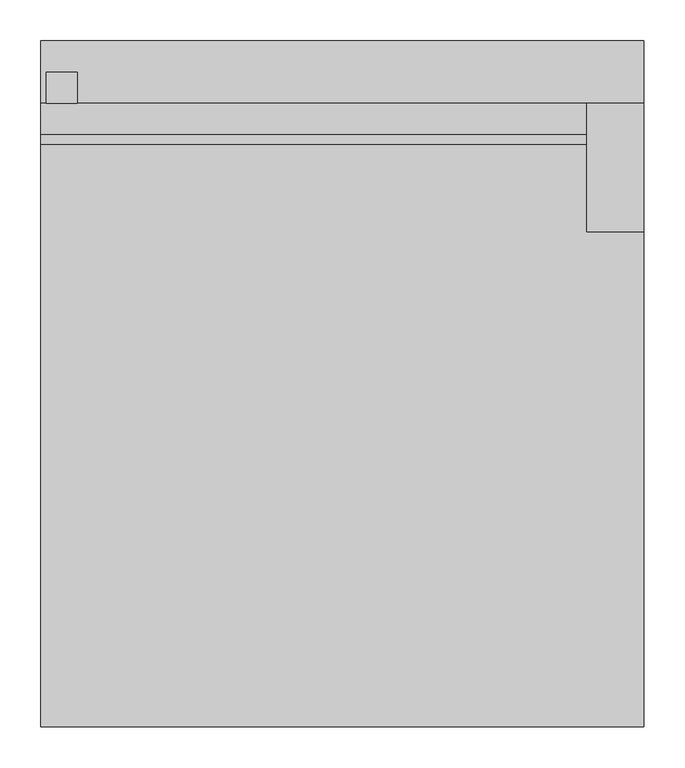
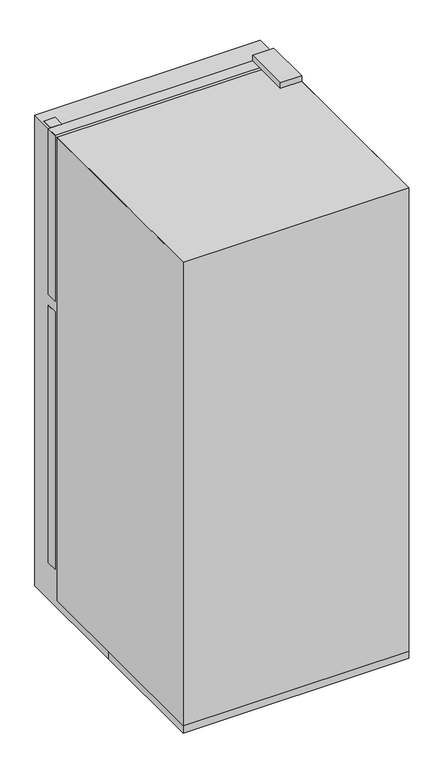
"""IFC4 building model written with IfcOpenShell, lengths in millimetres: proxy geometry, R7000 - Refrigerator, 14 Cubic Feet : R7000 - Refrigerator, 14 Cubic Feet."""

from ifc_helpers import new_model, si_unit, point, frame, frame_2d, origin, origin_with_axes, place, context, project, spatial, polyline, circle_curve, trimmed, segment, composite_curve, outline, extrude, source, transform, mapped, element, save


def specialty_equipment_83a1406d(model_context):
    return source(origin(), model_context, "Body", "SweptSolid", [
        extrude(outline(polyline([(381.0, 1016.0), (381.0, 443.3974927), (342.9, 443.3974927), (342.9, 457.3433737), (368.3159299, 457.3433737), (368.3159299, 1001.1256358), (342.9, 1001.1256358), (342.9, 1016.0), (381.0, 1016.0)])), frame((-361.95, 0.0, 0.0), z_axis=(1.0, 0.0, 0.0), x_axis=(0.0, 1.0, 0.0)), (0.0, 0.0, 1.0), 38.1),
        extrude(outline(polyline([(381.0, 1625.6), (381.0, 1052.9974927), (342.9, 1052.9974927), (342.9, 1066.9433737), (368.3159299, 1066.9433737), (368.3159299, 1610.7256358), (342.9, 1610.7256358), (342.9, 1625.6), (381.0, 1625.6)])), frame((-361.95, 0.0, 0.0), z_axis=(1.0, 0.0, 0.0), x_axis=(0.0, 1.0, 0.0)), (0.0, 0.0, 1.0), 38.1),
        extrude(outline(polyline([(368.3, 342.9), (368.3, 292.1), (291.9130819, 292.1), (291.9130819, 342.9), (368.3, 342.9)])), frame((0.0, 0.0, 107.8907444), z_axis=(0.0, 0.0, 1.0), x_axis=(1.0, 0.0, 0.0)), (0.0, 0.0, 1.0), 19.05),
        extrude(outline(polyline([(368.3, 342.9), (368.3, 292.1), (292.8726256, 292.1), (292.8726256, 342.9), (368.3, 342.9)])), frame((0.0, 0.0, 1015.9039339), z_axis=(0.0, 0.0, 1.0), x_axis=(1.0, 0.0, 0.0)), (0.0, 0.0, 1.0), 37.0935588),
        extrude(outline(polyline([(304.8, 292.1), (-304.8, 292.1), (-304.8, 311.15), (304.8, 311.15), (304.8, 292.1)])), frame((0.0, 0.0, 25.4), z_axis=(0.0, 0.0, 1.0), x_axis=(1.0, 0.0, 0.0)), (0.0, 0.0, 1.0), 82.55),
        extrude(outline(polyline([(368.3, 342.9), (368.3, 186.0315495), (298.45, 186.0315495), (298.45, 342.9), (368.3, 342.9)])), frame((0.0, 0.0, 1625.6581185), z_axis=(0.0, 0.0, 1.0), x_axis=(1.0, 0.0, 0.0)), (0.0, 0.0, 1.0), 19.05),
        extrude(outline(polyline([(355.6, 304.8), (355.6, 292.1), (-355.6, 292.1), (-355.6, 304.8), (355.6, 304.8)])), frame((0.0, 0.0, 1062.6629034), z_axis=(0.0, 0.0, 1.0), x_axis=(1.0, 0.0, 0.0)), (0.0, 0.0, 1.0), 548.0627325),
        extrude(outline(polyline([(368.3, 342.9), (368.3, 304.8), (-368.3, 304.8), (-368.3, 342.9), (368.3, 342.9)])), frame((0.0, 0.0, 1052.9974927), z_axis=(0.0, 0.0, 1.0), x_axis=(1.0, 0.0, 0.0)), (0.0, 0.0, 1.0), 572.6025073),
        extrude(outline(polyline([(355.6, 304.8), (355.6, 292.1), (-355.6, 292.1), (-355.6, 304.8), (355.6, 304.8)])), frame((0.0, 0.0, 149.0357475), z_axis=(0.0, 0.0, 1.0), x_axis=(1.0, 0.0, 0.0)), (0.0, 0.0, 1.0), 855.7147074),
        extrude(outline(polyline([(368.3, 342.9), (368.3, 304.8), (-368.3, 304.8), (-368.3, 342.9), (368.3, 342.9)])), frame((0.0, 0.0, 126.9407444), z_axis=(0.0, 0.0, 1.0), x_axis=(1.0, 0.0, 0.0)), (0.0, 0.0, 1.0), 888.9631895),
        extrude(outline(polyline([(368.3, -419.1), (-368.3, -419.1), (-368.3, 292.1), (368.3, 292.1), (368.3, -419.1)])), frame((0.0, 0.0, 25.4), z_axis=(0.0, 0.0, 1.0), x_axis=(1.0, 0.0, 0.0)), (0.0, 0.0, 1.0), 1600.2),
        extrude(outline(composite_curve([segment(trimmed(circle_curve(frame_2d((-295.1775617, 224.3320241)), 31.75), [point((-263.4275617, 224.3320241))], [point((-326.9275617, 224.3320241))], False, "CARTESIAN"), True, "CONTINUOUS"), segment(trimmed(circle_curve(frame_2d((-295.1775617, 224.3320241)), 31.75), [point((-326.9275617, 224.3320241))], [point((-263.4275617, 224.3320241))], False, "CARTESIAN"), True, "CONTINUOUS")], self_intersect=False)), origin_with_axes(), (0.0, 0.0, 1.0), 25.4),
        extrude(outline(composite_curve([segment(trimmed(circle_curve(frame_2d((295.1775617, 224.3320241)), 31.75), [point((263.4275617, 224.3320241))], [point((326.9275617, 224.3320241))], False, "CARTESIAN"), True, "CONTINUOUS"), segment(trimmed(circle_curve(frame_2d((295.1775617, 224.3320241)), 31.75), [point((326.9275617, 224.3320241))], [point((263.4275617, 224.3320241))], False, "CARTESIAN"), True, "CONTINUOUS")], self_intersect=False)), origin_with_axes(), (0.0, 0.0, 1.0), 25.4),
        extrude(outline(composite_curve([segment(trimmed(circle_curve(frame_2d((-295.1775617, -353.5179759)), 31.75), [point((-263.4275617, -353.5179759))], [point((-326.9275617, -353.5179759))], False, "CARTESIAN"), True, "CONTINUOUS"), segment(trimmed(circle_curve(frame_2d((-295.1775617, -353.5179759)), 31.75), [point((-326.9275617, -353.5179759))], [point((-263.4275617, -353.5179759))], False, "CARTESIAN"), True, "CONTINUOUS")], self_intersect=False)), origin_with_axes(), (0.0, 0.0, 1.0), 25.4),
        extrude(outline(composite_curve([segment(trimmed(circle_curve(frame_2d((295.1775617, -353.5179759)), 31.75), [point((263.4275617, -353.5179759))], [point((326.9275617, -353.5179759))], False, "CARTESIAN"), True, "CONTINUOUS"), segment(trimmed(circle_curve(frame_2d((295.1775617, -353.5179759)), 31.75), [point((326.9275617, -353.5179759))], [point((263.4275617, -353.5179759))], False, "CARTESIAN"), True, "CONTINUOUS")], self_intersect=False)), origin_with_axes(), (0.0, 0.0, 1.0), 25.4),
        extrude(outline(polyline([(-368.3, -419.1), (-368.3, 0.0), (-368.3, 419.1), (368.3, 419.1), (368.3, -419.1), (-368.3, -419.1)])), origin_with_axes(), (0.0, 0.0, 1.0), 1625.6),
    ])


if __name__ == "__main__":
    model = new_model("IFC4")
    model_context = context("Model", 3, world=origin())
    ifc_project = project(units=[si_unit("LENGTHUNIT", "METRE", prefix="MILLI")], contexts=[model_context])
    site = spatial("IfcSite", under=ifc_project)
    building = spatial("IfcBuilding", under=site)
    placement = place(None, origin())
    specialty_equipment_shape = specialty_equipment_83a1406d(model_context)
    element("IfcBuildingElementProxy", 1, Name="R7000 - Refrigerator, 14 Cubic Feet : R7000 - Refrigerator, 14 Cubic Feet", ObjectType="R7000 - Refrigerator, 14 Cubic Feet : R7000 - Refrigerator, 14 Cubic Feet", at=placement, inside=building, context=model_context, shape_type="MappedRepresentation", body=[
        mapped(specialty_equipment_shape, transform((0.0, 0.0, 0.0), x_axis=(1.0, 0.0, 0.0), y_axis=(0.0, 1.0, 0.0), z_axis=(0.0, 0.0, 1.0))),
    ])
    save(model, "model.ifc")
